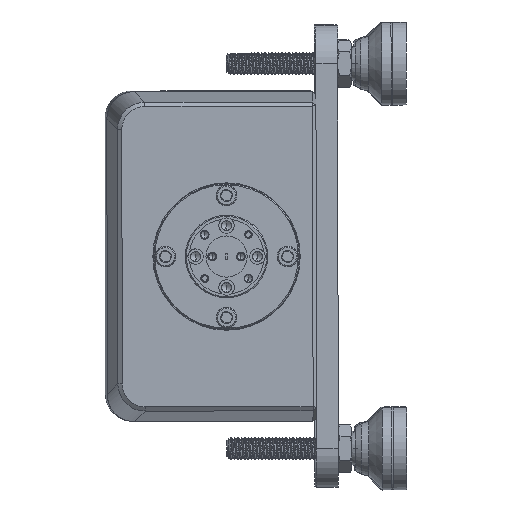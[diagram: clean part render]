
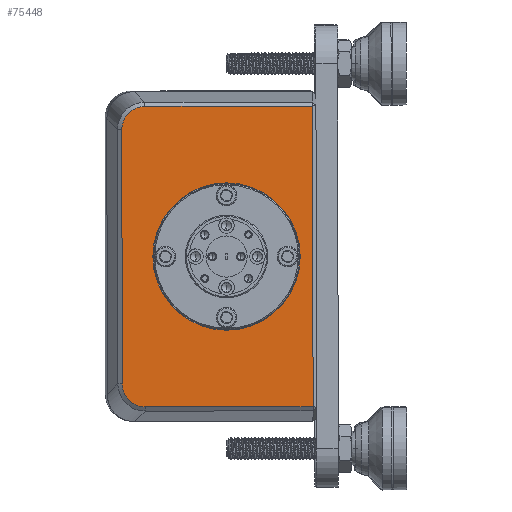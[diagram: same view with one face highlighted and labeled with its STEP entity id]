
A CAD part, left-side view. The second image highlights one B-rep face of the part: STEP entity #75448.
In plain terms, the highlighted planar face has unit normal (-1, -0.002, -0.001).
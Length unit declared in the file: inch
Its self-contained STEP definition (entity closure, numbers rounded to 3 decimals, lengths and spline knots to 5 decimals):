
#2053 = ORIENTED_EDGE ( 'NONE', *, *, #58842, .T. ) ;
#5589 = CARTESIAN_POINT ( 'NONE',  ( -3.34302, -7.61697, -1.31819 ) ) ;
#6011 = VECTOR ( 'NONE', #121394, 39.37008 ) ;
#6186 = CARTESIAN_POINT ( 'NONE',  ( -3.34369, -6.74883, -2.64268 ) ) ;
#9356 = CARTESIAN_POINT ( 'NONE',  ( -3.34513, -6.67076, -0.10827 ) ) ;
#9532 = VERTEX_POINT ( 'NONE', #12420 ) ;
#9949 = CARTESIAN_POINT ( 'NONE',  ( -3.34387, -6.6739, -2.53056 ) ) ;
#11600 = CARTESIAN_POINT ( 'NONE',  ( -3.34267, -7.61784, -1.98819 ) ) ;
#11747 = VECTOR ( 'NONE', #112886, 39.37008 ) ;
#12420 = CARTESIAN_POINT ( 'NONE',  ( -3.34489, -6.87405, 0.04592 ) ) ;
#15049 = VECTOR ( 'NONE', #121556, 39.37008 ) ;
#16831 = CARTESIAN_POINT ( 'NONE',  ( -3.34351, -6.85004, -2.68427 ) ) ;
#18538 = DIRECTION ( 'NONE',  ( -0.001, 0.001, 1. ) ) ;
#18908 = DIRECTION ( 'NONE',  ( -0.001, 0.001, 1. ) ) ;
#19401 = CARTESIAN_POINT ( 'NONE',  ( -3.34512, -6.6915, -0.05777 ) ) ;
#19428 = CARTESIAN_POINT ( 'NONE',  ( -3.34511, -6.6654, -0.16327 ) ) ;
#20861 = LINE ( 'NONE', #100103, #34433 ) ;
#22774 = CARTESIAN_POINT ( 'NONE',  ( -3.34391, -6.6684, -2.47558 ) ) ;
#23221 = CARTESIAN_POINT ( 'NONE',  ( -3.34323, -7.48197, -1.31837 ) ) ;
#24569 = DIRECTION ( 'NONE',  ( 1., 0.002, 0.001 ) ) ;
#25527 = VERTEX_POINT ( 'NONE', #11600 ) ;
#28836 = CARTESIAN_POINT ( 'NONE',  ( -3.34511, -6.6654, -0.16327 ) ) ;
#30692 = EDGE_LOOP ( 'NONE', ( #117384, #83074, #46450, #63657, #2053, #87106 ) ) ;
#30708 = CARTESIAN_POINT ( 'NONE',  ( -3.34381, -6.69476, -2.58101 ) ) ;
#31653 = CARTESIAN_POINT ( 'NONE',  ( -3.34252, -7.48374, -2.68344 ) ) ;
#34433 = VECTOR ( 'NONE', #18908, 39.37008 ) ;
#38859 = CARTESIAN_POINT ( 'NONE',  ( -3.34498, -6.81907, 0.04042 ) ) ;
#40631 = CARTESIAN_POINT ( 'NONE',  ( -3.34302, -7.61697, -1.31819 ) ) ;
#41252 = B_SPLINE_CURVE_WITH_KNOTS ( 'NONE', 3,
 ( #72284, #70968, #9949, #30708, #91132, #6186, #122602, #98070, #16831, #50838 ),
 .UNSPECIFIED., .F., .F.,
 ( 4, 2, 2, 2, 4 ),
 ( 0., 0.25, 0.5, 0.75, 1. ),
 .UNSPECIFIED. ) ;
#43752 = CARTESIAN_POINT ( 'NONE',  ( -3.34451, -6.6669, -1.31942 ) ) ;
#46257 = EDGE_CURVE ( 'NONE', #67557, #121835, #60528, .T. ) ;
#46300 = ORIENTED_EDGE ( 'NONE', *, *, #130264, .F. ) ;
#46450 = ORIENTED_EDGE ( 'NONE', *, *, #118038, .T. ) ;
#50244 = CARTESIAN_POINT ( 'NONE',  ( -3.34512, -6.66536, -0.13572 ) ) ;
#50838 = CARTESIAN_POINT ( 'NONE',  ( -3.34347, -6.87759, -2.68423 ) ) ;
#50921 = CARTESIAN_POINT ( 'NONE',  ( -3.34494, -6.84656, 0.04589 ) ) ;
#53476 = AXIS2_PLACEMENT_3D ( 'NONE', #5589, #109455, #96799 ) ;
#58842 = EDGE_CURVE ( 'NONE', #9532, #72311, #126917, .T. ) ;
#59176 = AXIS2_PLACEMENT_3D ( 'NONE', #23221, #24569, #64194 ) ;
#60528 = LINE ( 'NONE', #31653, #15049 ) ;
#61208 = EDGE_CURVE ( 'NONE', #72311, #104283, #105460, .T. ) ;
#63657 = ORIENTED_EDGE ( 'NONE', *, *, #76748, .T. ) ;
#64194 = DIRECTION ( 'NONE',  ( 0.001, -0.001, -1. ) ) ;
#64388 = VERTEX_POINT ( 'NONE', #91457 ) ;
#67557 = VERTEX_POINT ( 'NONE', #100705 ) ;
#70968 = CARTESIAN_POINT ( 'NONE',  ( -3.34389, -6.66843, -2.50307 ) ) ;
#72284 = CARTESIAN_POINT ( 'NONE',  ( -3.34391, -6.6684, -2.47558 ) ) ;
#72311 = VERTEX_POINT ( 'NONE', #19428 ) ;
#73571 = FACE_BOUND ( 'NONE', #107010, .T. ) ;
#75448 = ADVANCED_FACE ( 'NONE', ( #116497, #73571 ), #115158, .F. ) ;
#76748 = EDGE_CURVE ( 'NONE', #99931, #9532, #101950, .T. ) ;
#79794 = CARTESIAN_POINT ( 'NONE',  ( -3.34504, -6.76862, 0.01956 ) ) ;
#80496 = CARTESIAN_POINT ( 'NONE',  ( -3.34394, -7.4802, 0.04671 ) ) ;
#83074 = ORIENTED_EDGE ( 'NONE', *, *, #46257, .T. ) ;
#87106 = ORIENTED_EDGE ( 'NONE', *, *, #61208, .T. ) ;
#91132 = CARTESIAN_POINT ( 'NONE',  ( -3.34377, -6.71028, -2.60422 ) ) ;
#91457 = CARTESIAN_POINT ( 'NONE',  ( -3.34337, -7.6161, -0.64819 ) ) ;
#96799 = DIRECTION ( 'NONE',  ( -0.001, 0.001, 1. ) ) ;
#98070 = CARTESIAN_POINT ( 'NONE',  ( -3.34356, -6.82259, -2.67887 ) ) ;
#99022 = EDGE_CURVE ( 'NONE', #104283, #67557, #41252, .T. ) ;
#99931 = VERTEX_POINT ( 'NONE', #113303 ) ;
#100103 = CARTESIAN_POINT ( 'NONE',  ( -3.3418, -8.40197, -1.31717 ) ) ;
#100705 = CARTESIAN_POINT ( 'NONE',  ( -3.34347, -6.87759, -2.68423 ) ) ;
#101950 = LINE ( 'NONE', #80496, #6011 ) ;
#102217 = ORIENTED_EDGE ( 'NONE', *, *, #127854, .F. ) ;
#104283 = VERTEX_POINT ( 'NONE', #22774 ) ;
#105460 = LINE ( 'NONE', #43752, #11747 ) ;
#106280 = CIRCLE ( 'NONE', #110688, 0.67 ) ;
#107010 = EDGE_LOOP ( 'NONE', ( #102217, #46300 ) ) ;
#109455 = DIRECTION ( 'NONE',  ( -1., -0.002, -0.001 ) ) ;
#110442 = DIRECTION ( 'NONE',  ( -1., -0.002, -0.001 ) ) ;
#110688 = AXIS2_PLACEMENT_3D ( 'NONE', #40631, #110442, #18538 ) ;
#111297 = CARTESIAN_POINT ( 'NONE',  ( -3.34511, -6.70695, -0.03451 ) ) ;
#112886 = DIRECTION ( 'NONE',  ( 0.001, -0.001, -1. ) ) ;
#113303 = CARTESIAN_POINT ( 'NONE',  ( -3.34251, -8.4002, 0.0479 ) ) ;
#115158 = PLANE ( 'NONE',  #59176 ) ;
#116497 = FACE_OUTER_BOUND ( 'NONE', #30692, .T. ) ;
#117384 = ORIENTED_EDGE ( 'NONE', *, *, #99022, .T. ) ;
#118038 = EDGE_CURVE ( 'NONE', #121835, #99931, #20861, .T. ) ;
#120693 = CARTESIAN_POINT ( 'NONE',  ( -3.34507, -6.74541, 0.00403 ) ) ;
#121394 = DIRECTION ( 'NONE',  ( -0.002, 1., -0.001 ) ) ;
#121556 = DIRECTION ( 'NONE',  ( 0.002, -1., 0.001 ) ) ;
#121588 = CARTESIAN_POINT ( 'NONE',  ( -3.34109, -8.40374, -2.68225 ) ) ;
#121835 = VERTEX_POINT ( 'NONE', #121588 ) ;
#122602 = CARTESIAN_POINT ( 'NONE',  ( -3.34365, -6.77209, -2.65813 ) ) ;
#126917 = B_SPLINE_CURVE_WITH_KNOTS ( 'NONE', 3,
 ( #131458, #50921, #38859, #79794, #120693, #111297, #19401, #9356, #50244, #28836 ),
 .UNSPECIFIED., .F., .F.,
 ( 4, 2, 2, 2, 4 ),
 ( 0., 0.25, 0.5, 0.75, 1. ),
 .UNSPECIFIED. ) ;
#127854 = EDGE_CURVE ( 'NONE', #64388, #25527, #106280, .T. ) ;
#130264 = EDGE_CURVE ( 'NONE', #25527, #64388, #130694, .T. ) ;
#130694 = CIRCLE ( 'NONE', #53476, 0.67 ) ;
#131458 = CARTESIAN_POINT ( 'NONE',  ( -3.34489, -6.87405, 0.04592 ) ) ;
